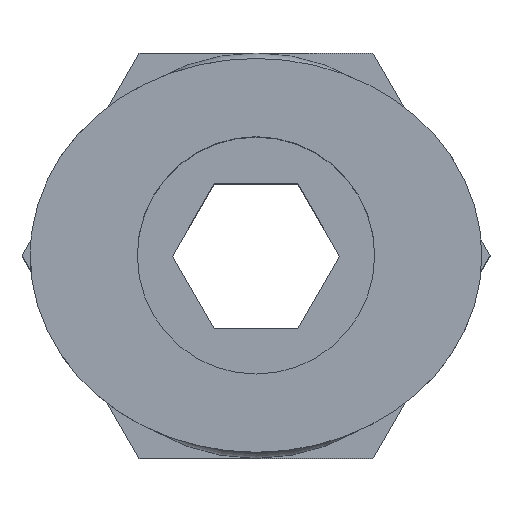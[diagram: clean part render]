
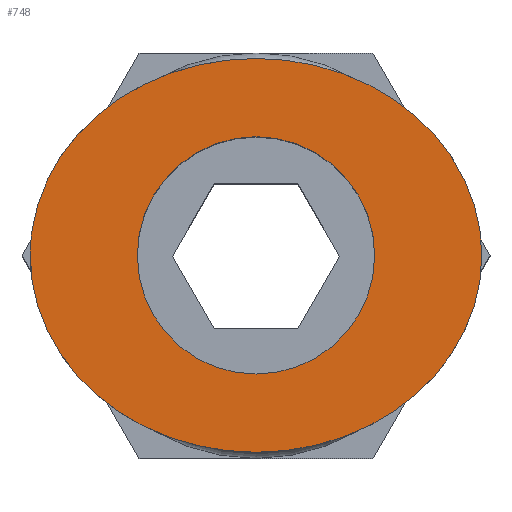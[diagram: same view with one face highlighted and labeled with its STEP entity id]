
A CAD part, top view. The second image highlights one B-rep face of the part: STEP entity #748.
In plain terms, the highlighted planar face has unit normal (0, 0, 1) as drawn and (0, 0, -1) by its records, which use the part's own axes.
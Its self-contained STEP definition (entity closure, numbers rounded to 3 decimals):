
#25=ELLIPSE('',#835,7.8,6.8);
#177=PLANE('',#836);
#212=FACE_BOUND('',#335,.T.);
#263=FACE_OUTER_BOUND('',#334,.T.);
#334=EDGE_LOOP('',(#688));
#335=EDGE_LOOP('',(#689));
#376=CIRCLE('',#833,4.1);
#435=VERTEX_POINT('',#1265);
#437=VERTEX_POINT('',#1287);
#520=EDGE_CURVE('',#435,#435,#376,.T.);
#523=EDGE_CURVE('',#437,#437,#25,.T.);
#688=ORIENTED_EDGE('',*,*,#523,.T.);
#689=ORIENTED_EDGE('',*,*,#520,.T.);
#748=ADVANCED_FACE('',(#263,#212),#177,.F.);
#833=AXIS2_PLACEMENT_3D('',#1266,#1051,#1052);
#835=AXIS2_PLACEMENT_3D('',#1290,#1055,#1056);
#836=AXIS2_PLACEMENT_3D('',#1291,#1057,#1058);
#1051=DIRECTION('center_axis',(0.,0.,1.));
#1052=DIRECTION('ref_axis',(-1.,0.,0.));
#1055=DIRECTION('center_axis',(0.,0.,-1.));
#1056=DIRECTION('ref_axis',(1.,0.,0.));
#1057=DIRECTION('center_axis',(0.,0.,1.));
#1058=DIRECTION('ref_axis',(1.,0.,0.));
#1265=CARTESIAN_POINT('',(4.1,0.,0.));
#1266=CARTESIAN_POINT('Origin',(0.,0.,0.));
#1287=CARTESIAN_POINT('',(-7.8,0.,0.));
#1290=CARTESIAN_POINT('Origin',(0.,0.,0.));
#1291=CARTESIAN_POINT('Origin',(0.,0.,
0.));
